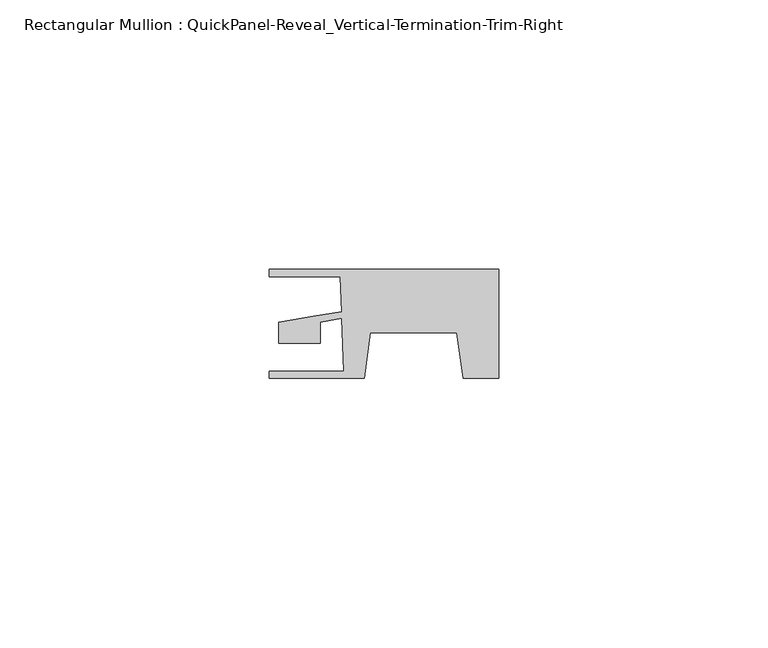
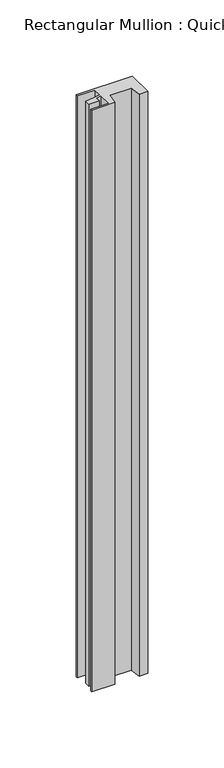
"""IFC4 building model written with IfcOpenShell, lengths in millimetres: member geometry, Rectangular Mullion : QuickPanel-Reveal_Vertical-Termination-Trim-Right."""

from ifc_helpers import new_model, si_unit, frame, origin, place, context, project, spatial, polyline, outline, extrude, source, transform, mapped, element, save


def rectangular_mullion_quickpanel_reveal_vertical_termination_2aad5a0d(model_context):
    return source(origin(), model_context, "Body", "SweptSolid", [
        extrude(outline(polyline([(-42.7011763, 8.095605), (0.0, 8.095605), (0.0, -12.1803727), (-6.6616417, -12.1803727), (-7.8503594, -3.7222065), (-23.8634859, -3.7222065), (-25.0522037, -12.1803727), (-42.7011763, -12.1803727), (-42.7011763, -10.9303752), (-28.8448229, -10.9303752), (-29.1887499, -1.0815922), (-33.1743189, -1.7648465), (-33.1743189, -5.6493034), (-40.919092, -5.6493034), (-40.919092, -1.8040245), (-34.4837593, -0.7008023), (-29.2334784, 0.1992641), (-29.4602636, 6.6935423), (-42.7011763, 6.6935423), (-42.7011763, 8.095605)])), frame((0.0, 0.0, -466.6765358), z_axis=(0.0, 0.0, 1.0), x_axis=(1.0, 0.0, 0.0)), (0.0, 0.0, 1.0), 466.6765358),
    ])


if __name__ == "__main__":
    model = new_model("IFC4")
    model_context = context("Model", 3, world=origin())
    ifc_project = project(units=[si_unit("LENGTHUNIT", "METRE", prefix="MILLI")], contexts=[model_context])
    site = spatial("IfcSite", under=ifc_project)
    building = spatial("IfcBuilding", under=site)
    placement = place(None, origin())
    rectangular_mullion_quickpanel_reveal_vertical_termination_shape = rectangular_mullion_quickpanel_reveal_vertical_termination_2aad5a0d(model_context)
    element("IfcMember", 1, ObjectType="Rectangular Mullion : QuickPanel-Reveal_Vertical-Termination-Trim-Right", at=placement, inside=building, context=model_context, shape_type="MappedRepresentation", body=[
        mapped(rectangular_mullion_quickpanel_reveal_vertical_termination_shape, transform((0.0, 0.0, 0.0), x_axis=(1.0, 0.0, 0.0), y_axis=(0.0, 1.0, 0.0), z_axis=(0.0, 0.0, 1.0))),
    ])
    save(model, "model.ifc")
